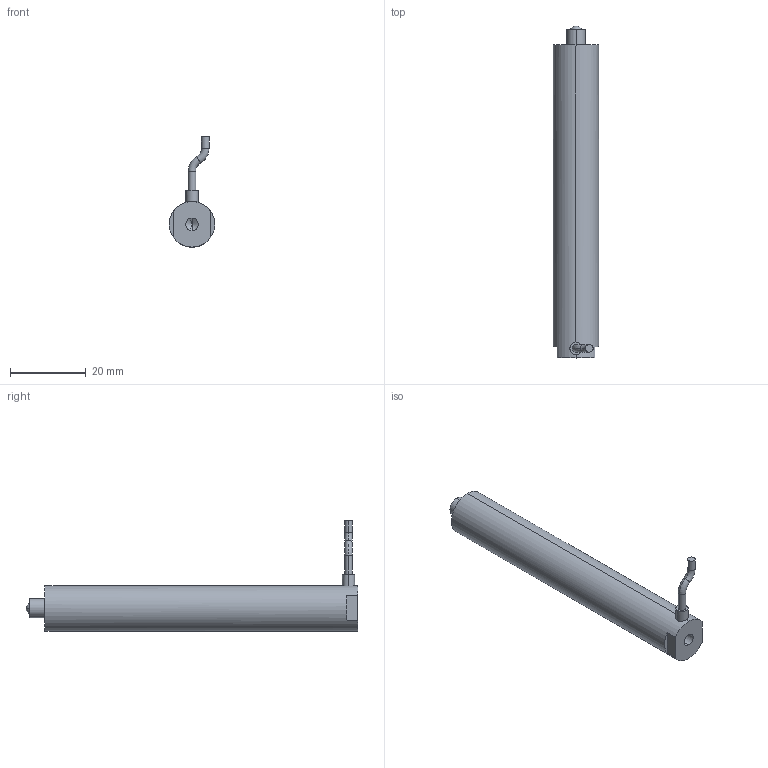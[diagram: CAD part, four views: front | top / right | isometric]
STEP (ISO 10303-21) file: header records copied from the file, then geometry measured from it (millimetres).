
FILE_DESCRIPTION (( 'STEP AP203' ), '1' );
FILE_NAME ('球头式80VS12.STEP', '2020-08-19T06:04:46', ( 'User' ), ( 'china' ), 'SwSTEP 2.0', 'SolidWorks 2016', '' );
FILE_SCHEMA (( 'CONFIG_CONTROL_DESIGN' ));
Length unit declared in the file: millimetre
Products named in the file (1): ⑩芛宒80VS12
Bounding box: 12 x 87.5 x 29.08 mm (x, y, z)
Volume: 9403.7 mm3; surface area: 3596.2 mm2
Topology: 1 solids, 1 shells, 927 faces, 2487 edges, 1654 vertices
Faces by surface type: bspline 515, plane 302, cylinder 102, torus 4, sphere 2, cone 2
Entity records: 43764 total; most frequent: CARTESIAN_POINT 25098, ORIENTED_EDGE 4970, EDGE_CURVE 2485, DIRECTION 1886, B_SPLINE_CURVE_WITH_KNOTS 1689, VERTEX_POINT 1654, EDGE_LOOP 1021, ADVANCED_FACE 927
